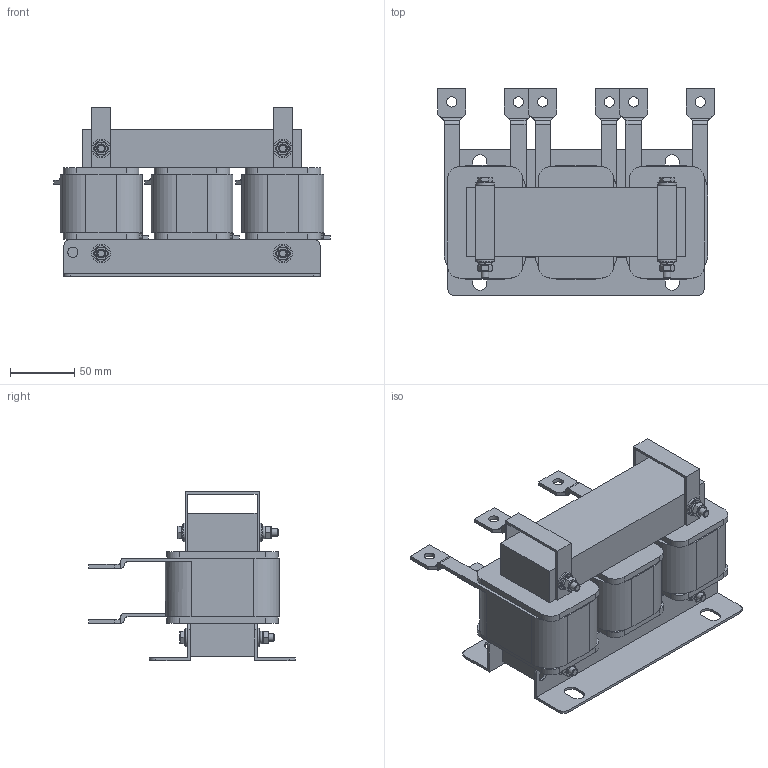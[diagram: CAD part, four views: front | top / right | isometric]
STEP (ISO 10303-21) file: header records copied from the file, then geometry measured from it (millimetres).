
FILE_DESCRIPTION(('STEP AP203'), '1');
FILE_NAME('栖闉罻 _ ISF-45_92-4', '', ('UNSPECIFIED'), ('UNSPECIFIED'), 'ASCON STEP Converter 1.6', 'ASCON Math Kernel', '');
FILE_SCHEMA(('CONFIG_CONTROL_DESIGN'));
Length unit declared in the file: millimetre
Products named in the file (13): ISF-45_92-4
Assembly tree (43 placements, depth 2):
  ISF-45_92-4
    ISF-45_92-4
    ISF-45_92-4  x2
    ISF-45_92-4  x6
    ISF-45_92-4  x3
    ISF-45_92-4
    ISF-45_92-4  x2
    ISF-45_92-4  x8
    ISF-45_92-4  x8
    ISF-45_92-4  x4
    ISF-45_92-4  x4
    ISF-45_92-4  x2
    ISF-45_92-4  x2
Bounding box: 216 x 161.5 x 132 mm (x, y, z)
Volume: 1469217.7 mm3; surface area: 289465.7 mm2
Topology: 43 solids, 43 shells, 520 faces, 1158 edges, 728 vertices
Faces by surface type: plane 368, cylinder 136, cone 12, torus 4
Full cylindrical faces by diameter (mm): 6 x36, 8 x8, 12 x8, 14.5 x8
Entity records: 6669 total; most frequent: CARTESIAN_POINT 1135, DIRECTION 914, ORIENTED_EDGE 776, EDGE_CURVE 388, AXIS2_PLACEMENT_3D 309, LINE 296, VECTOR 296, VERTEX_POINT 258
